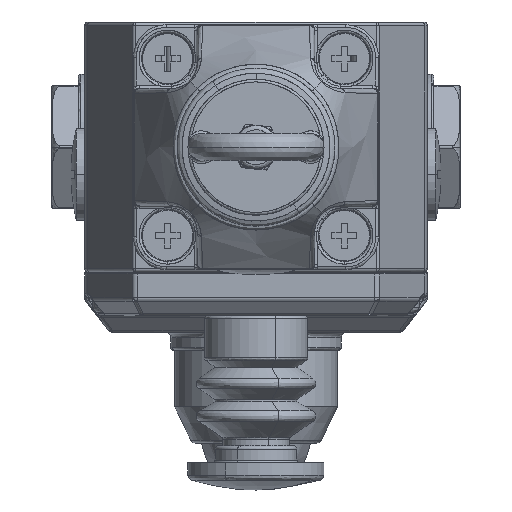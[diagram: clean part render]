
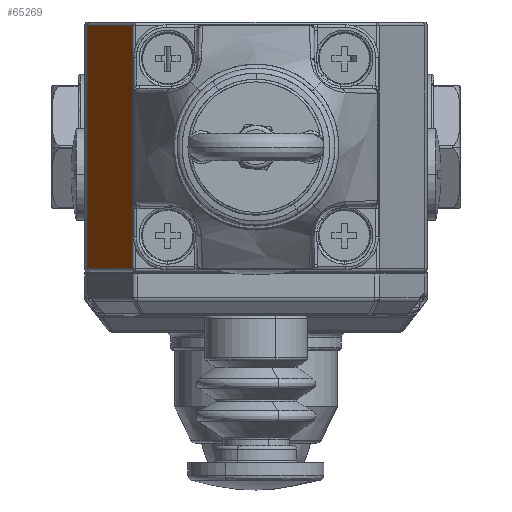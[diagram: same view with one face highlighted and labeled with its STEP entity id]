
A CAD part, front view. The second image highlights one B-rep face of the part: STEP entity #65269.
In plain terms, the highlighted planar face has unit normal (-0.906, -0.423, 0).
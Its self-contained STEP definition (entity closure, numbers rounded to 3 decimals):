
#2035 = LINE ( 'NONE', #31914, #49888 ) ;
#3381 = FACE_OUTER_BOUND ( 'NONE', #23035, .T. ) ;
#4019 = DIRECTION ( 'NONE',  ( 0.423, -0.906, 0. ) ) ;
#6509 = VERTEX_POINT ( 'NONE', #74886 ) ;
#8515 = VECTOR ( 'NONE', #16897, 1000. ) ;
#12921 = ORIENTED_EDGE ( 'NONE', *, *, #21936, .T. ) ;
#13290 = CARTESIAN_POINT ( 'NONE',  ( 0.468, -92.204, 45.3 ) ) ;
#13602 = VERTEX_POINT ( 'NONE', #47065 ) ;
#16597 = EDGE_CURVE ( 'NONE', #6509, #80915, #2035, .T. ) ;
#16897 = DIRECTION ( 'NONE',  ( 0.423, -0.906, 0. ) ) ;
#19645 = DIRECTION ( 'NONE',  ( 0., 0., 1. ) ) ;
#21936 = EDGE_CURVE ( 'NONE', #80915, #50213, #53207, .T. ) ;
#22129 = EDGE_CURVE ( 'NONE', #50213, #13602, #28741, .T. ) ;
#23035 = EDGE_LOOP ( 'NONE', ( #47439, #12921, #35789, #29858 ) ) ;
#24157 = CARTESIAN_POINT ( 'NONE',  ( 4.667, -101.208, 45.3 ) ) ;
#24811 = VECTOR ( 'NONE', #51959, 1000. ) ;
#28741 = LINE ( 'NONE', #39375, #24811 ) ;
#29858 = ORIENTED_EDGE ( 'NONE', *, *, #48044, .T. ) ;
#31914 = CARTESIAN_POINT ( 'NONE',  ( 8.865, -110.211, 23. ) ) ;
#35059 = PLANE ( 'NONE',  #61685 ) ;
#35789 = ORIENTED_EDGE ( 'NONE', *, *, #22129, .T. ) ;
#38520 = VECTOR ( 'NONE', #74097, 1000. ) ;
#39375 = CARTESIAN_POINT ( 'NONE',  ( 0.468, -92.204, 23. ) ) ;
#41092 = CARTESIAN_POINT ( 'NONE',  ( 0.468, -92.204, 0.7 ) ) ;
#41362 = DIRECTION ( 'NONE',  ( -0.906, -0.423, 0. ) ) ;
#47065 = CARTESIAN_POINT ( 'NONE',  ( 0.468, -92.204, 0.7 ) ) ;
#47439 = ORIENTED_EDGE ( 'NONE', *, *, #16597, .T. ) ;
#48044 = EDGE_CURVE ( 'NONE', #13602, #6509, #58273, .T. ) ;
#48595 = CARTESIAN_POINT ( 'NONE',  ( 4.667, -101.208, 0.7 ) ) ;
#49888 = VECTOR ( 'NONE', #19645, 1000. ) ;
#50213 = VERTEX_POINT ( 'NONE', #13290 ) ;
#51959 = DIRECTION ( 'NONE',  ( 0., 0., -1. ) ) ;
#53207 = LINE ( 'NONE', #24157, #38520 ) ;
#58273 = LINE ( 'NONE', #48595, #8515 ) ;
#60786 = CARTESIAN_POINT ( 'NONE',  ( 8.865, -110.211, 45.3 ) ) ;
#61685 = AXIS2_PLACEMENT_3D ( 'NONE', #41092, #41362, #4019 ) ;
#65269 = ADVANCED_FACE ( 'NONE', ( #3381 ), #35059, .T. ) ;
#74097 = DIRECTION ( 'NONE',  ( -0.423, 0.906, 0. ) ) ;
#74886 = CARTESIAN_POINT ( 'NONE',  ( 8.865, -110.211, 0.7 ) ) ;
#80915 = VERTEX_POINT ( 'NONE', #60786 ) ;
